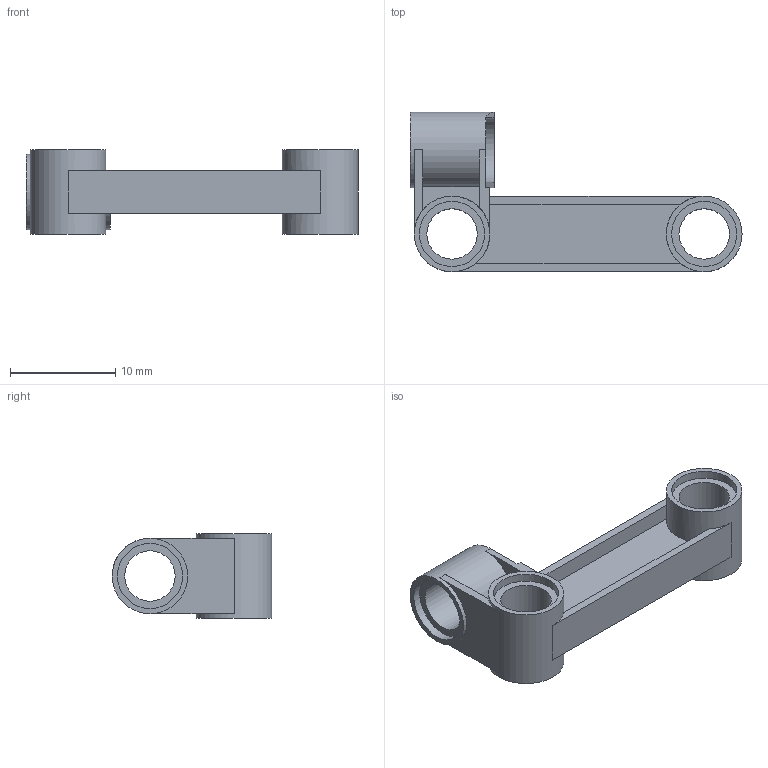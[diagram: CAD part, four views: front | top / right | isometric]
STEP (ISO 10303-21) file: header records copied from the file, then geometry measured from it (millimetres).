
FILE_DESCRIPTION(/* description */ ('Unknown'),/* implementation_level */ '2;1');
FILE_NAME(/* name */ 'Black_6019986_AVV',/* time_stamp */ '2025-07-21T23:49:09+02:00',/* author */ ('Unknown'),/* organization */ ('Unknown'),/* preprocessor_version */ 'ST-DEVELOPER v19.4',/* originating_system */ 'Solid Edge',/* authorisation */ 'Unknown');
FILE_SCHEMA (('AUTOMOTIVE_DESIGN {1 0 10303 214 3 1 1}'));
Length unit declared in the file: millimetre
Products named in the file (1): Black_6019986_AVV
Bounding box: 31.6 x 15.2 x 8 mm (x, y, z)
Volume: 743.4 mm3; surface area: 1629 mm2
Topology: 1 solids, 1 shells, 54 faces, 130 edges, 84 vertices
Faces by surface type: plane 42, cylinder 12
Full cylindrical faces by diameter (mm): 4.8 x3, 6.2 x5, 7.2 x3
Entity records: 1551 total; most frequent: DIRECTION 275, CARTESIAN_POINT 255, ORIENTED_EDGE 234, EDGE_CURVE 117, AXIS2_PLACEMENT_3D 103, VERTEX_POINT 83, EDGE_LOOP 78, FACE_BOUND 78
